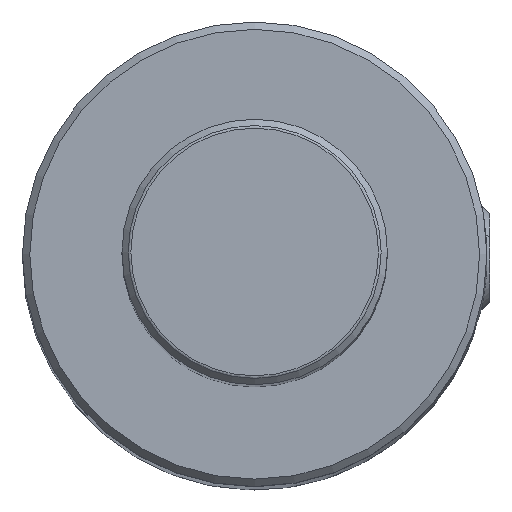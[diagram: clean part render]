
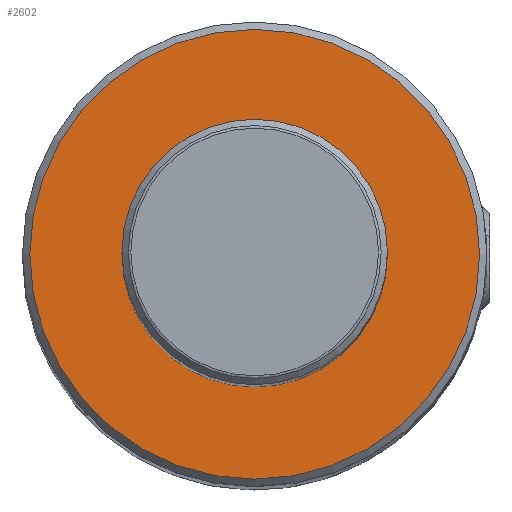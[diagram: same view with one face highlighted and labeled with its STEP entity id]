
A CAD part, top view. The second image highlights one B-rep face of the part: STEP entity #2602.
In plain terms, the highlighted planar face has unit normal (0, 0, 1).
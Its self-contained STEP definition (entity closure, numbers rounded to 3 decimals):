
#2582 = VERTEX_POINT('',#2583);
#2583 = CARTESIAN_POINT('',(30.5,0.,269.));
#2591 = EDGE_CURVE('',#2582,#2582,#2592,.T.);
#2592 = CIRCLE('',#2593,30.5);
#2593 = AXIS2_PLACEMENT_3D('',#2594,#2595,#2596);
#2594 = CARTESIAN_POINT('',(0.,0.,269.));
#2595 = DIRECTION('',(0.,0.,1.));
#2596 = DIRECTION('',(1.,0.,0.));
#2602 = ADVANCED_FACE('',(#2603),#2606,.T.);
#2603 = FACE_BOUND('',#2604,.T.);
#2604 = EDGE_LOOP('',(#2605));
#2605 = ORIENTED_EDGE('',*,*,#2591,.T.);
#2606 = PLANE('',#2607);
#2607 = AXIS2_PLACEMENT_3D('',#2608,#2609,#2610);
#2608 = CARTESIAN_POINT('',(0.,0.,269.));
#2609 = DIRECTION('',(0.,0.,1.));
#2610 = DIRECTION('',(1.,0.,0.));
